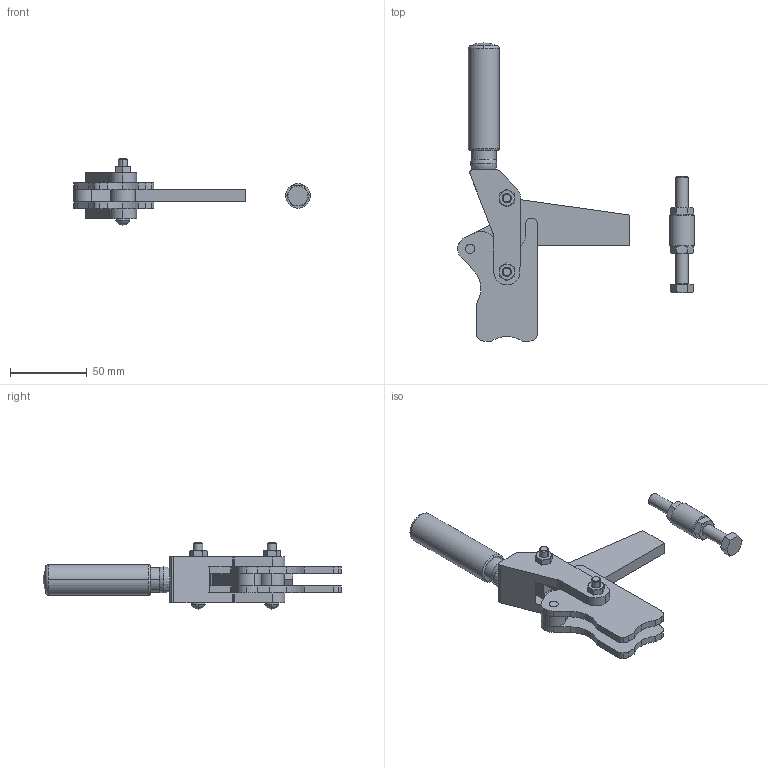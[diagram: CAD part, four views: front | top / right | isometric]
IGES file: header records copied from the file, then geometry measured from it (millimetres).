
Start section:  Level              Description ========  ================================        1  SANDFIELD
Global section: file name: D:/WORK/SANDFIELD/sandfield_3d/Vertical_Action/HEAVY_DUTY/M18/M18T.IGS; native system: AutoCAD-13_c4a_Mh (HwLock) (Microsoft Windows NT Version 4.0 (x86)); preprocessor: AutoCAD IGES Translator R13.1c2 (Jan 23 1997) from Autodesk, Inc.; author: ProCAD; organization: Sandfield Eng Co.; date: 990520.143142; units: millimetre
Bounding box: 153.93 x 194 x 43 mm (x, y, z)
Volume: 125275.8 mm3; surface area: 52558.3 mm2
Topology: 18 solids, 18 shells, 303 faces, 736 edges, 469 vertices
Faces by surface type: plane 105, cylinder 102, bspline 70, cone 14, sphere 8, torus 4
